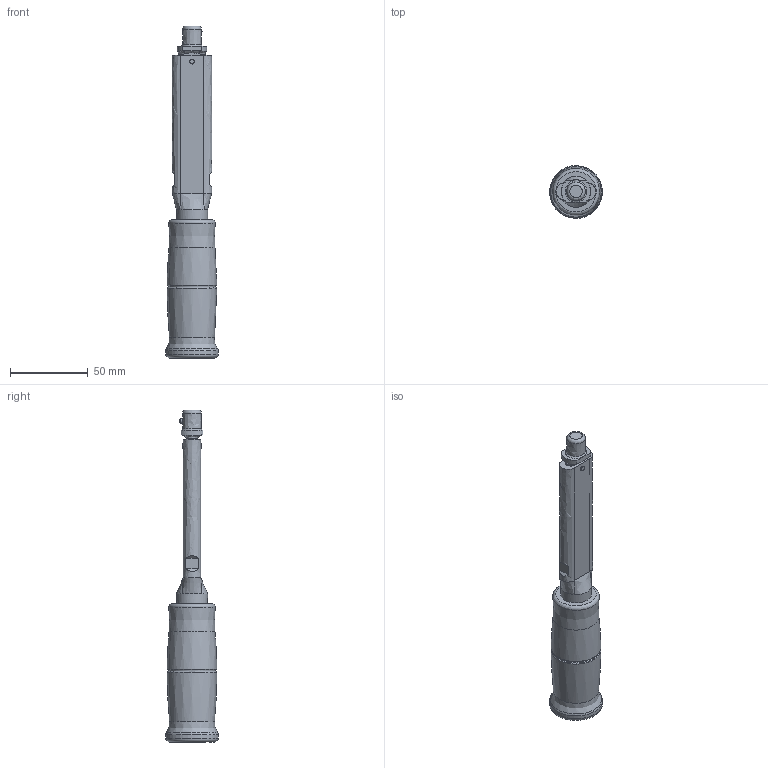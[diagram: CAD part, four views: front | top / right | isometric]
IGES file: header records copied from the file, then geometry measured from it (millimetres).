
Global section: file name: BCSP40NX12D_Shrinkwrap_1; native system: Autodesk Inventor 2018; preprocessor: unknown; author: Q618; date: 20180621.161845; units: millimetre
Bounding box: 34 x 33.99 x 214 mm (x, y, z)
Volume: 96531.8 mm3; surface area: 18411.1 mm2
Topology: 2 solids, 4 shells, 88 faces, 238 edges, 163 vertices
Faces by surface type: bspline 88
